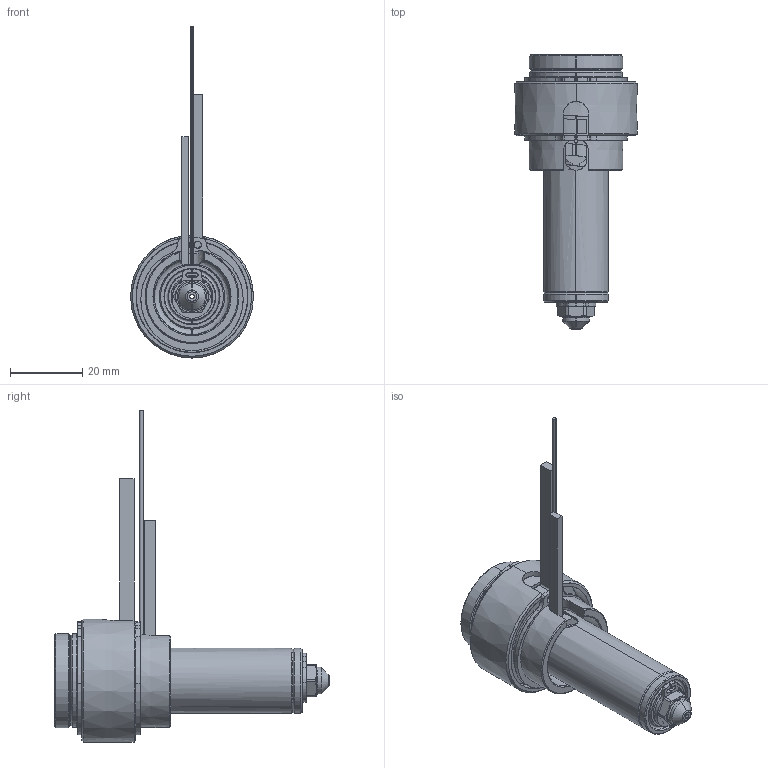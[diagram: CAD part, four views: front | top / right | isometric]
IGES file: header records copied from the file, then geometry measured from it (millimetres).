
Start section: SolidWorks IGES file using analytic representation for surfaces
Global section: file name: C:\Documents and Settings\ws-20\Desktop\TEM\UGER2501-S-A-0 [Øb-1.30 ØC-4.0].IGS; native system: SolidWorks 2012; preprocessor: SolidWorks 2012; author: ws-20; date: 120405.101634; units: millimetre
Bounding box: 34 x 75.9 x 91.9 mm (x, y, z)
Surface area: 21130.6 mm2 (no closed solid volume)
Topology: 0 solids, 0 shells, 203 faces, 2749 edges, 2749 vertices
Faces by surface type: revolution 128, bspline 75
